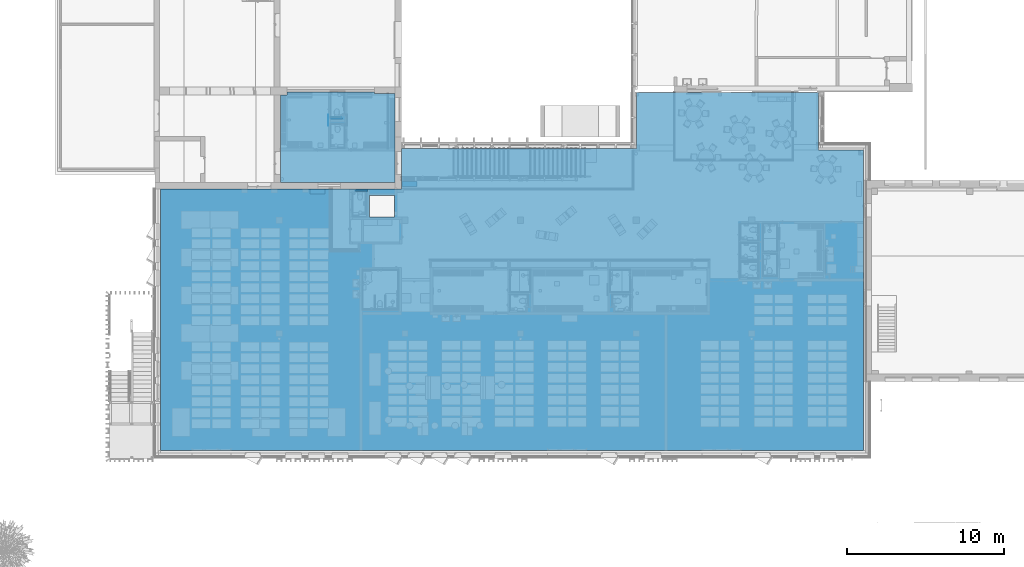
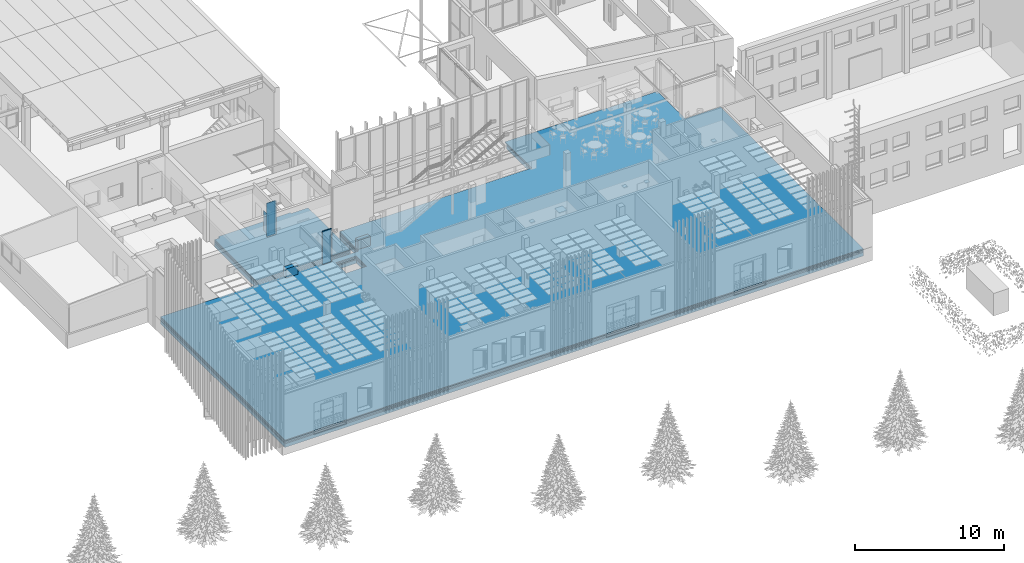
# One storey, part 187 of 301: 14 building element parts, 3 discrete accessories, 4 elements without a shape of their own.
"""IFC2X3 building model written with IfcOpenShell, lengths in millimetres."""

from ifc_helpers import new_model, entity, si_unit, converted_unit, derived_unit, money_unit, direction, frame, origin_with_axes, place, context, subcontext, project, spatial, faceted_brep, material, type_object, element, aggregate, save


model = new_model("IFC2X3")

# Units and contexts
model_context = context("Model", 3, precision=0.01, world=origin_with_axes(), true_north=direction((0.0, 1.0)))
body_context = subcontext(model_context, "Body", "Model", "MODEL_VIEW")
ifc_project = project(units=[si_unit("LENGTHUNIT", "METRE", prefix="MILLI"), si_unit("AREAUNIT", "SQUARE_METRE"), si_unit("VOLUMEUNIT", "CUBIC_METRE"), converted_unit("PLANEANGLEUNIT", "DEGREE", entity("IfcPlaneAngleMeasure", 0.0174532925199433), si_unit("PLANEANGLEUNIT", "RADIAN"), dimensions=[0, 0, 0, 0, 0, 0, 0]), money_unit("EUR"), converted_unit("TIMEUNIT", "Year", entity("IfcTimeMeasure", 31557600.0), si_unit("TIMEUNIT", "SECOND"), dimensions=[0, 0, 1, 0, 0, 0, 0]), si_unit("MASSUNIT", "GRAM", prefix="KILO"), si_unit("THERMODYNAMICTEMPERATUREUNIT", "DEGREE_CELSIUS"), si_unit("LUMINOUSINTENSITYUNIT", "LUMEN"), si_unit("ENERGYUNIT", "JOULE", prefix="MEGA"), derived_unit("THERMALCONDUCTANCEUNIT", [(si_unit("POWERUNIT", "WATT"), 1), (si_unit("LENGTHUNIT", "METRE"), -1), (si_unit("THERMODYNAMICTEMPERATUREUNIT", "KELVIN"), -1)]), derived_unit("SPECIFICHEATCAPACITYUNIT", [(si_unit("ENERGYUNIT", "JOULE"), 1), (si_unit("MASSUNIT", "GRAM", prefix="KILO"), -1), (si_unit("THERMODYNAMICTEMPERATUREUNIT", "KELVIN"), -1)]), derived_unit("MASSDENSITYUNIT", [(si_unit("MASSUNIT", "GRAM", prefix="KILO"), 1), (si_unit("VOLUMEUNIT", "CUBIC_METRE"), -1)])], contexts=[model_context])

# Site, building, storey
site_placement = place(None, frame((0.0, 0.0, 8650.0), z_axis=(0.0, 0.0, 1.0), x_axis=(1.0, 0.0, 0.0)))
site = spatial("IfcSite", under=ifc_project, at=site_placement, Name="43301:001:0844", CompositionType="ELEMENT")
building_placement = place(site_placement, origin_with_axes())
building = spatial("IfcBuilding", under=site, at=building_placement, Name="Kuressaare Ametikooli tuulikute mehaanikute õppekorpus", CompositionType="ELEMENT")
storey_placement = place(building_placement, origin_with_axes())
storey = spatial("IfcBuildingStorey", under=building, at=storey_placement, Name="1.korrus", CompositionType="ELEMENT", Elevation=0.0)

# Discrete accessories
ifc_material_1 = material(Name="GENEERILINE - SISEMINE VOODER")
discrete_accessory_type_1 = type_object("IfcDiscreteAccessoryType", Name="GENEERILINE - SISEMINE VOODER 10")
discrete_accessory_placement = place(storey_placement, frame((98977.70520619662, 30488.53918858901, 500.0), z_axis=(0.0, 0.0, 1.0), x_axis=(2.083127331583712e-06, -0.9999999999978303, 0.0)))
element("IfcDiscreteAccessory", 1, at=discrete_accessory_placement, inside=storey, type_object=discrete_accessory_type_1, material=ifc_material_1, Name="P3", context=body_context, shape_type="Brep", body=[
    faceted_brep([(0.0, 0.0, 1600.0), (699.9999999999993, 0.0, 1600.0), (699.9999999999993, 10.00000000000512, 1600.0), (0.0, 10.00000000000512, 1600.0), (0.0, 0.0, 0.0), (699.9999999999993, 0.0, 0.0), (699.9999999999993, 10.00000000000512, 0.0), (0.0, 10.00000000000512, 0.0)], [[[0, 1, 2, 3]], [[4, 5, 1, 0]], [[2, 1, 5, 6]], [[3, 2, 6, 7]], [[4, 0, 3, 7]], [[7, 6, 5, 4]]]),
])
ifc_material_2 = material(Name="GENEERILINE - KONSTRUKTRIOON")
discrete_accessory_type_2 = type_object("IfcDiscreteAccessoryType", Name="GENEERILINE - KONSTRUKTRIOON 750")
for number, where, z_axis, x_axis, name in (
    (2, (103672.9895724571, 26259.57374875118, 0.0), (0.0, 0.0, 1.0), (1.0, 0.0, 0.0), "PR2"),
    (3, (97824.29829892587, 25783.06892395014, 0.0), (0.0, 0.0, 1.0), (1.0, 0.0, 0.0), "PR2"),
):
    element("IfcDiscreteAccessory", number, at=place(storey_placement, frame(where, z_axis=z_axis, x_axis=x_axis)), inside=storey, type_object=discrete_accessory_type_2, material=ifc_material_2, Name=name, context=body_context, shape_type="Brep", body=[
        faceted_brep([(0.0, 0.0, 750.0), (0.0, 0.0, 0.0), (0.0, -319.9999999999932, 0.0), (0.0, -319.9999999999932, 750.0), (949.9999999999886, 0.0, 750.0), (949.9999999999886, 0.0, 0.0), (949.9999999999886, -319.9999999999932, 0.0), (949.9999999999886, -319.9999999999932, 750.0)], [[[0, 1, 2, 3]], [[4, 5, 1, 0]], [[2, 1, 5, 6]], [[3, 2, 6, 7]], [[4, 0, 3, 7]], [[7, 6, 5, 4]]]),
    ])

# Slab, building element parts
slab_type = type_object("IfcSlabType", Name="P-1 600", PredefinedType="NOTDEFINED")
slab_1_placement = place(storey_placement, frame((95947.90111654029, 26183.06892395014, 0.0), z_axis=(0.0, 0.0, 1.0), x_axis=(1.0, 0.0, 0.0)))
slab_1 = element("IfcSlab", 4, at=slab_1_placement, inside=storey, type_object=slab_type, PredefinedType="NOTDEFINED")
ifc_material_3 = material(Name="Betoon - C30/37")
building_element_part_1_placement = place(slab_1_placement, origin_with_axes())
building_element_part_1 = element("IfcBuildingElementPart", 5, at=building_element_part_1_placement, material=ifc_material_3, Name="Betoon - C30/37", context=body_context, shape_type="Brep", body=[
    faceted_brep([(7279.61109049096, 0.0, -99.99999999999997), (7279.61109049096, 0.0, 0.0), (0.0, 0.0, 0.0), (0.0, 0.0, -99.99999999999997), (7279.61109049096, 5660.94057480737, -99.99999999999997), (7279.61109049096, 5660.94057480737, 0.0), (5971.860583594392, 5660.940572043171, 0.0), (5971.860583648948, 5770.940570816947, 0.0), (398.6829081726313, 5770.940573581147, 0.0), (398.6829081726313, 5571.776691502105, 0.0), (0.0, 5571.776691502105, 0.0), (0.0, 5571.776691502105, -99.99999999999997), (398.6829081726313, 5571.776691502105, -99.99999999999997), (398.6829081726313, 5770.940573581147, -99.99999999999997), (5971.860583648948, 5770.940570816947, -99.99999999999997), (5971.860583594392, 5660.940572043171, -99.99999999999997)], [[[0, 1, 2, 3]], [[4, 5, 1, 0]], [[2, 1, 5, 6, 7, 8, 9, 10]], [[3, 2, 10, 11]], [[3, 11, 12, 13, 14, 15, 4, 0]], [[15, 6, 5, 4]], [[14, 7, 6, 15]], [[13, 8, 7, 14]], [[12, 9, 8, 13]], [[11, 10, 9, 12]]]),
])
ifc_material_4 = material(Name="Soojustus - Vahtpolüstüreen")
building_element_part_2_placement = place(slab_1_placement, origin_with_axes())
building_element_part_2 = element("IfcBuildingElementPart", 6, at=building_element_part_2_placement, material=ifc_material_4, Name="Soojustus - Vahtpolüstüreen", context=body_context, shape_type="Brep", body=[
    faceted_brep([(7279.61109049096, 0.0, -200.0), (7279.61109049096, 0.0, -100.0), (0.0, 0.0, -100.0), (0.0, 0.0, -200.0), (7279.61109049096, 5660.94057480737, -200.0), (7279.61109049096, 5660.94057480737, -100.0), (5971.860583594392, 5660.940572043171, -100.0), (5971.860583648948, 5770.940570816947, -100.0), (398.6829081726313, 5770.940573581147, -100.0), (398.6829081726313, 5571.776691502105, -100.0), (0.0, 5571.776691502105, -100.0), (0.0, 5571.776691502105, -200.0), (398.6829081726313, 5571.776691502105, -200.0), (398.6829081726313, 5770.940573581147, -200.0), (5971.860583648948, 5770.940570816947, -200.0), (5971.860583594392, 5660.940572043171, -200.0)], [[[0, 1, 2, 3]], [[4, 5, 1, 0]], [[2, 1, 5, 6, 7, 8, 9, 10]], [[3, 2, 10, 11]], [[3, 11, 12, 13, 14, 15, 4, 0]], [[15, 6, 5, 4]], [[14, 7, 6, 15]], [[13, 8, 7, 14]], [[12, 9, 8, 13]], [[11, 10, 9, 12]]]),
])
building_element_part_3_placement = place(slab_1_placement, origin_with_axes())
building_element_part_3 = element("IfcBuildingElementPart", 7, at=building_element_part_3_placement, material=ifc_material_4, Name="Soojustus - Vahtpolüstüreen", context=body_context, shape_type="Brep", body=[
    faceted_brep([(7279.61109049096, 0.0, -300.0000000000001), (7279.61109049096, 0.0, -200.0), (0.0, 0.0, -200.0), (0.0, 0.0, -300.0000000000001), (7279.61109049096, 5660.94057480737, -300.0000000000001), (7279.61109049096, 5660.94057480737, -200.0), (5971.860583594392, 5660.940572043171, -200.0), (5971.860583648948, 5770.940570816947, -200.0), (398.6829081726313, 5770.940573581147, -200.0), (398.6829081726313, 5571.776691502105, -200.0), (0.0, 5571.776691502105, -200.0), (0.0, 5571.776691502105, -300.0000000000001), (398.6829081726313, 5571.776691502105, -300.0000000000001), (398.6829081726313, 5770.940573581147, -300.0000000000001), (5971.860583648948, 5770.940570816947, -300.0000000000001), (5971.860583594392, 5660.940572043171, -300.0000000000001)], [[[0, 1, 2, 3]], [[4, 5, 1, 0]], [[2, 1, 5, 6, 7, 8, 9, 10]], [[3, 2, 10, 11]], [[3, 11, 12, 13, 14, 15, 4, 0]], [[15, 6, 5, 4]], [[14, 7, 6, 15]], [[13, 8, 7, 14]], [[12, 9, 8, 13]], [[11, 10, 9, 12]]]),
])
ifc_material_5 = material(Name="Kruus")
building_element_part_4_placement = place(slab_1_placement, origin_with_axes())
building_element_part_4 = element("IfcBuildingElementPart", 8, at=building_element_part_4_placement, material=ifc_material_5, Name="Kruus", context=body_context, shape_type="Brep", body=[
    faceted_brep([(0.0, 0.0, -600.0000000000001), (7279.61109049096, 0.0, -600.0000000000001), (7279.61109049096, 0.0, -300.0000000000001), (0.0, 0.0, -300.0000000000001), (0.0, 5571.776691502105, -600.0000000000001), (398.6829081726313, 5571.776691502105, -600.0000000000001), (398.6829081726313, 5770.940573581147, -600.0000000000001), (5971.860583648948, 5770.940570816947, -600.0000000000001), (5971.860583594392, 5660.940572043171, -600.0000000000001), (7279.61109049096, 5660.94057480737, -600.0000000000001), (7279.61109049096, 5660.94057480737, -300.0000000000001), (5971.860583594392, 5660.940572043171, -300.0000000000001), (5971.860583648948, 5770.940570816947, -300.0000000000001), (398.6829081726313, 5770.940573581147, -300.0000000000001), (398.6829081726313, 5571.776691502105, -300.0000000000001), (0.0, 5571.776691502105, -300.0000000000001)], [[[0, 1, 2, 3]], [[0, 4, 5, 6, 7, 8, 9, 1]], [[1, 9, 10, 2]], [[3, 2, 10, 11, 12, 13, 14, 15]], [[4, 0, 3, 15]], [[5, 4, 15, 14]], [[6, 5, 14, 13]], [[7, 6, 13, 12]], [[8, 7, 12, 11]], [[9, 8, 11, 10]]]),
])
aggregate(slab_1, [building_element_part_1, building_element_part_2, building_element_part_3, building_element_part_4])

slab_2_placement = place(storey_placement, frame((101615.6546914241, 25783.06892395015, 0.0), z_axis=(0.0, 0.0, 1.0), x_axis=(1.0, 0.0, 0.0)))
slab_2 = element("IfcSlab", 9, at=slab_2_placement, inside=storey, type_object=slab_type, PredefinedType="NOTDEFINED")
building_element_part_5_placement = place(slab_2_placement, origin_with_axes())
building_element_part_5 = element("IfcBuildingElementPart", 10, at=building_element_part_5_placement, material=ifc_material_3, Name="Betoon - C30/37", context=body_context, shape_type="Brep", body=[
    faceted_brep([(-13297.42804624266, 0.0, -100.0000000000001), (-13297.42804624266, -16659.23043340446, -100.0000000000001), (-13297.42804624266, -16659.23043340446, 0.0), (-13297.42804624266, 0.0, 0.0), (2031.857515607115, 0.0, -100.0000000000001), (2031.857515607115, 2600.999999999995, -100.0000000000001), (16878.894347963, 2600.999999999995, -100.0000000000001), (16878.894347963, 6138.830856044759, -100.0000000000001), (28660.53118406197, 6138.830856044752, -100.0000000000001), (28665.49492643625, 2461.000000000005, -100.0000000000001), (31409.29175022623, 2461.000000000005, -100.0000000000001), (31409.29175022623, -16659.23043340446, -100.0000000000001), (0.0, -428.9992806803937, -100.0000000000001), (0.0, -1808.999280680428, -100.0000000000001), (1590.00000000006, -1808.999280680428, -100.0000000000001), (1590.00000000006, -428.9992806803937, -100.0000000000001), (31409.29175022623, -16659.23043340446, 0.0), (2031.857515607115, 0.0, 0.0), (31409.29175022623, 2461.000000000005, 0.0), (28665.49492643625, 2461.000000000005, 0.0), (28660.53118406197, 6138.830856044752, 0.0), (16878.894347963, 6138.830856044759, 0.0), (16878.894347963, 2600.999999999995, 0.0), (2031.857515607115, 2600.999999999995, 0.0), (1590.00000000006, -1808.999280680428, 0.0), (0.0, -1808.999280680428, 0.0), (0.0, -428.9992806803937, 0.0), (1590.00000000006, -428.9992806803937, 0.0)], [[[0, 1, 2, 3]], [[0, 4, 5, 6, 7, 8, 9, 10, 11, 1], [12, 13, 14, 15]], [[1, 11, 16, 2]], [[17, 3, 2, 16, 18, 19, 20, 21, 22, 23], [24, 25, 26, 27]], [[4, 0, 3, 17]], [[5, 4, 17, 23]], [[6, 5, 23, 22]], [[7, 6, 22, 21]], [[8, 7, 21, 20]], [[9, 8, 20, 19]], [[10, 9, 19, 18]], [[11, 10, 18, 16]], [[13, 12, 26, 25]], [[14, 13, 25, 24]], [[15, 14, 24, 27]], [[12, 15, 27, 26]]]),
])
building_element_part_6_placement = place(slab_2_placement, origin_with_axes())
building_element_part_6 = element("IfcBuildingElementPart", 11, at=building_element_part_6_placement, material=ifc_material_4, Name="Soojustus - Vahtpolüstüreen", context=body_context, shape_type="Brep", body=[
    faceted_brep([(16682.30071968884, 2576.549620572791, -199.9999999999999), (16682.30071968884, 2576.549620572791, -100.0000119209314), (16978.89412782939, 2576.549620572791, -99.99999999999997), (16978.89412782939, 2576.549620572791, -199.9999999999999), (16682.30071731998, 2576.36333041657, -100.0000119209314), (16682.30071731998, 2576.36333041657, -200.0), (12271.43982669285, 2576.419418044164, -100.0000119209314), (12271.43982834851, 2576.549620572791, -100.0000119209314), (5526.439828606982, 2576.549620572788, -100.0000119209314), (5526.439828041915, 2576.505183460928, -100.0000119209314), (2031.855828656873, 2576.549620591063, -100.0000119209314), (2031.857515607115, 0.0, -100.0), (-13297.42804624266, 0.0, -100.0), (-13297.42804624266, -16659.23043340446, -100.0), (31409.29175022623, -16659.23043340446, -100.0), (31409.2862845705, 610.0796663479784, -99.99999999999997), (31409.29175022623, 1304.786452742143, -100.0), (31409.29175022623, 2461.000000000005, -100.0), (28665.49492640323, 2461.00375705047, -100.0), (28540.76768211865, 2461.00266097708, -99.99999999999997), (28540.80000199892, 6138.830856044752, -100.0), (16978.92543231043, 6138.830856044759, -100.0), (0.0, -428.9992806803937, -100.0), (1590.00000000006, -428.9992806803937, -100.0), (1590.00000000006, -1808.999280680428, -100.0), (0.0, -1808.999280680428, -100.0), (16978.92543231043, 6138.830856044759, -200.0), (28540.80000199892, 6138.830856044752, -200.0), (28540.7672504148, 2460.720270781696, -200.0), (31409.29175022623, 2460.720270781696, -199.9999999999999), (31409.29175022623, 1304.786452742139, -200.0), (31409.2862845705, 610.0796663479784, -199.9999999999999), (31409.29175022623, -16659.23043340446, -200.0), (-13297.42804624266, -16659.23043340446, -200.0), (-13297.42804624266, 0.0, -200.0), (2031.857515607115, 0.0, -200.0), (2031.855828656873, 2576.549620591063, -199.9999999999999), (5526.439828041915, 2576.505183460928, -199.9999999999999), (5526.439828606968, 2576.549620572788, -200.0), (12271.43982834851, 2576.549620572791, -199.9999999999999), (12271.43982669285, 2576.419418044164, -199.9999999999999), (1590.00000000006, -1808.999280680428, -200.0), (1590.00000000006, -428.9992806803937, -200.0), (0.0, -428.9992806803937, -200.0), (0.0, -1808.999280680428, -200.0), (31409.29175022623, 2461.000000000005, -110.0002746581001), (31409.29175022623, 2460.720270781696, -110.0002746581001), (28665.49492136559, 2461.00375704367, -110.0002746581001), (28540.7672504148, 2461.00266097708, -110.0002746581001), (28540.7672504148, 2460.720270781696, -110.0002746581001)], [[[0, 1, 2, 3]], [[4, 1, 0, 5]], [[4, 6, 7, 8, 9, 10, 11, 12, 13, 14, 15, 16, 17, 18, 19, 20, 21, 2, 1], [22, 23, 24, 25]], [[26, 3, 2, 21]], [[5, 0, 3, 26, 27, 28, 29, 30, 31, 32, 33, 34, 35, 36, 37, 38, 39, 40], [41, 42, 43, 44]], [[4, 5, 40, 6]], [[40, 39, 7, 6]], [[8, 7, 39, 38]], [[38, 37, 9, 8]], [[37, 36, 10, 9]], [[35, 11, 10, 36]], [[12, 11, 35, 34]], [[13, 12, 34, 33]], [[14, 13, 33, 32]], [[32, 31, 15, 14]], [[31, 30, 16, 15]], [[45, 17, 16, 30, 29, 46]], [[45, 47, 18, 17]], [[48, 19, 18, 47]], [[27, 20, 19, 48, 49, 28]], [[26, 21, 20, 27]], [[23, 22, 43, 42]], [[24, 23, 42, 41]], [[25, 24, 41, 44]], [[22, 25, 44, 43]], [[49, 46, 29, 28]], [[48, 47, 45, 46, 49]]]),
])
building_element_part_7_placement = place(slab_2_placement, origin_with_axes())
building_element_part_7 = element("IfcBuildingElementPart", 12, at=building_element_part_7_placement, material=ifc_material_4, Name="Soojustus - Vahtpolüstüreen", context=body_context, shape_type="Brep", body=[
    faceted_brep([(16682.30071968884, 2576.549620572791, -300.0000000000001), (16682.30071968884, 2576.549620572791, -199.9999999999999), (16978.89412782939, 2576.549620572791, -199.9999999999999), (16978.89412782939, 2576.549620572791, -300.0000000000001), (16682.30071731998, 2576.36333041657, -200.0), (16682.30071731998, 2576.36333041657, -300.0000000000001), (12271.43982669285, 2576.419418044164, -199.9999999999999), (12271.43982834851, 2576.549620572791, -199.9999999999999), (5526.439828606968, 2576.549620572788, -199.9999999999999), (5526.439828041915, 2576.505183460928, -199.9999999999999), (2031.855828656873, 2576.549620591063, -199.9999999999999), (2031.857515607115, 0.0, -200.0), (-13297.42804624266, 0.0, -200.0), (-13297.42804624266, -16659.23043340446, -200.0), (31409.29175022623, -16659.23043340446, -200.0), (31409.2862845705, 610.0796663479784, -199.9999999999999), (31409.29175022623, 1304.786452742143, -200.0), (31409.29175022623, 2460.720270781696, -200.0), (28540.7672504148, 2460.720270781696, -200.0), (28540.80000199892, 6138.830856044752, -200.0), (16978.92543231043, 6138.830856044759, -200.0), (0.0, -428.9992806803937, -200.0), (1590.00000000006, -428.9992806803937, -200.0), (1590.00000000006, -1808.999280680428, -200.0), (0.0, -1808.999280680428, -200.0), (16978.92543231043, 6138.830856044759, -300.0000000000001), (28540.80000199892, 6138.830856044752, -300.0000000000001), (28540.7672504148, 2460.720270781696, -300.0000000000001), (31409.29175022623, 2460.720270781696, -300.0000000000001), (31409.29175022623, 1304.786452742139, -300.0000000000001), (31409.2862845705, 610.0796663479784, -300.0000000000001), (31409.29175022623, -16659.23043340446, -300.0000000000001), (-13297.42804624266, -16659.23043340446, -300.0000000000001), (-13297.42804624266, 0.0, -300.0000000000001), (2031.857515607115, 0.0, -300.0000000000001), (2031.855828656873, 2576.549620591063, -300.0000000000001), (5526.439828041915, 2576.505183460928, -300.0000000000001), (5526.439828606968, 2576.549620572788, -300.0000000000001), (12271.43982834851, 2576.549620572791, -300.0000000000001), (12271.43982669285, 2576.419418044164, -300.0000000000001), (1590.00000000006, -1808.999280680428, -300.0000000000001), (1590.00000000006, -428.9992806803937, -300.0000000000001), (0.0, -428.9992806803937, -300.0000000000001), (0.0, -1808.999280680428, -300.0000000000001)], [[[0, 1, 2, 3]], [[4, 1, 0, 5]], [[4, 6, 7, 8, 9, 10, 11, 12, 13, 14, 15, 16, 17, 18, 19, 20, 2, 1], [21, 22, 23, 24]], [[25, 3, 2, 20]], [[5, 0, 3, 25, 26, 27, 28, 29, 30, 31, 32, 33, 34, 35, 36, 37, 38, 39], [40, 41, 42, 43]], [[4, 5, 39, 6]], [[39, 38, 7, 6]], [[8, 7, 38, 37]], [[37, 36, 9, 8]], [[36, 35, 10, 9]], [[34, 11, 10, 35]], [[12, 11, 34, 33]], [[13, 12, 33, 32]], [[14, 13, 32, 31]], [[31, 30, 15, 14]], [[30, 29, 16, 15]], [[28, 17, 16, 29]], [[27, 18, 17, 28]], [[27, 26, 19, 18]], [[25, 20, 19, 26]], [[22, 21, 42, 41]], [[23, 22, 41, 40]], [[24, 23, 40, 43]], [[21, 24, 43, 42]]]),
])
building_element_part_8_placement = place(slab_2_placement, origin_with_axes())
building_element_part_8 = element("IfcBuildingElementPart", 13, at=building_element_part_8_placement, material=ifc_material_5, Name="Kruus", context=body_context, shape_type="Brep", body=[
    faceted_brep([(16682.30071968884, 2576.549620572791, -600.0000000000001), (16682.30071968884, 2576.549620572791, -300.0000000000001), (16978.89412782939, 2576.549620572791, -300.0000000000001), (16978.89412782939, 2576.549620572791, -600.0000000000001), (16682.30071731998, 2576.36333041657, -300.0000000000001), (16682.30071731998, 2576.363330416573, -600.0000000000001), (12271.43982669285, 2576.419418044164, -300.0000000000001), (12271.43982834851, 2576.549620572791, -300.0000000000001), (5526.439828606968, 2576.549620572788, -300.0000000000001), (5526.439828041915, 2576.505183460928, -300.0000000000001), (2031.855828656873, 2576.549620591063, -300.0000000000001), (2031.857515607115, 0.0, -300.0000000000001), (-13297.42804624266, 0.0, -300.0000000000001), (-13297.42804624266, -16659.23043340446, -300.0000000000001), (31409.29175022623, -16659.23043340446, -300.0000000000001), (31409.2862845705, 610.0796663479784, -300.0000000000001), (31409.29175022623, 1304.786452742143, -300.0000000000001), (31409.29175022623, 2460.720270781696, -300.0000000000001), (28540.7672504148, 2460.720270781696, -300.0000000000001), (28540.80000199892, 6138.830856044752, -300.0000000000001), (16978.92543231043, 6138.830856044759, -300.0000000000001), (0.0, -428.9992806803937, -300.0000000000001), (1590.00000000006, -428.9992806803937, -300.0000000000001), (1590.00000000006, -1808.999280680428, -300.0000000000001), (0.0, -1808.999280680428, -300.0000000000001), (16978.92543231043, 6138.830856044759, -600.0000000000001), (28540.80000199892, 6138.830856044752, -600.0000000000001), (28540.7672504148, 2460.720270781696, -600.0000000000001), (31409.29175022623, 2460.720270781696, -600.0000000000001), (31409.29175022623, 1304.786452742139, -600.0000000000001), (31409.2862845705, 610.0796663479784, -600.0000000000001), (31409.29175022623, -16659.23043340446, -600.0000000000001), (-13297.42804624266, -16659.23043340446, -600.0000000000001), (-13297.42804624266, 0.0, -600.0000000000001), (2031.857515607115, 0.0, -600.0000000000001), (2031.855828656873, 2576.549620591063, -600.0000000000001), (5526.439828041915, 2576.505183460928, -600.0000000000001), (5526.439828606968, 2576.549620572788, -600.0000000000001), (12271.43982834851, 2576.549620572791, -600.0000000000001), (12271.43982669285, 2576.419418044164, -600.0000000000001), (1590.00000000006, -1808.999280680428, -600.0000000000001), (1590.00000000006, -428.9992806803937, -600.0000000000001), (0.0, -428.9992806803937, -600.0000000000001), (0.0, -1808.999280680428, -600.0000000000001)], [[[0, 1, 2, 3]], [[4, 1, 0, 5]], [[4, 6, 7, 8, 9, 10, 11, 12, 13, 14, 15, 16, 17, 18, 19, 20, 2, 1], [21, 22, 23, 24]], [[25, 3, 2, 20]], [[5, 0, 3, 25, 26, 27, 28, 29, 30, 31, 32, 33, 34, 35, 36, 37, 38, 39], [40, 41, 42, 43]], [[4, 5, 39, 6]], [[39, 38, 7, 6]], [[8, 7, 38, 37]], [[37, 36, 9, 8]], [[36, 35, 10, 9]], [[34, 11, 10, 35]], [[12, 11, 34, 33]], [[32, 13, 12, 33]], [[31, 14, 13, 32]], [[31, 30, 15, 14]], [[30, 29, 16, 15]], [[28, 17, 16, 29]], [[27, 18, 17, 28]], [[27, 26, 19, 18]], [[25, 20, 19, 26]], [[41, 22, 21, 42]], [[40, 23, 22, 41]], [[43, 24, 23, 40]], [[42, 21, 24, 43]]]),
])
aggregate(slab_2, [building_element_part_5, building_element_part_6, building_element_part_7, building_element_part_8])

# Wall, building element parts
wall_type = type_object("IfcWallType", Name="SS-2.4 92", PredefinedType="NOTDEFINED")
wall_1_placement = place(storey_placement, frame((99779.70585881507, 30337.74403529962, 0.0), z_axis=(0.0, 0.0, 1.0), x_axis=(-0.9999993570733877, 0.001133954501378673, 0.0)))
wall_1 = element("IfcWall", 14, at=wall_1_placement, inside=storey, type_object=wall_type, Name="Sisesein")
ifc_material_6 = material(Name="Air Space - Frame")
building_element_part_9_placement = place(wall_1_placement, origin_with_axes())
building_element_part_9 = element("IfcBuildingElementPart", 15, at=building_element_part_9_placement, material=ifc_material_6, Name="Air Space - Frame", context=body_context, shape_type="Brep", body=[
    faceted_brep([(0.0, 91.99999999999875, 2700.0), (-92.10434143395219, 91.99999999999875, 2700.0), (-92.02953019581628, 25.9999999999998, 2700.0), (0.0, 25.9999999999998, 2700.0), (-92.104338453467, 91.99999999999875, 0.0), (0.0, 91.99999999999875, 2720.000000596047), (651.8952897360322, 91.99999999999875, 2720.000000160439), (651.8952897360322, 91.99999999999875, 0.0), (-92.02952721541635, 25.99999999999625, 0.0), (651.9701307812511, 26.00000000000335, 0.0), (651.9701307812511, 26.00000000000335, 2720.000000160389), (0.0, 25.9999999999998, 2720.000000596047)], [[[0, 1, 2, 3]], [[4, 1, 0, 5, 6, 7]], [[8, 2, 1, 4]], [[3, 2, 8, 9, 10, 11]], [[0, 3, 11, 5]], [[6, 5, 11, 10]], [[10, 9, 7, 6]], [[9, 8, 4, 7]]]),
])
ifc_material_7 = material(Name="Plaster - Gypsum")
building_element_part_10_placement = place(wall_1_placement, origin_with_axes())
building_element_part_10 = element("IfcBuildingElementPart", 16, at=building_element_part_10_placement, material=ifc_material_7, Name="Plaster - Gypsum", context=body_context, shape_type="Brep", body=[
    faceted_brep([(651.9996136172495, 0.0, 2600.0), (0.0, 0.0, 2600.0), (0.0, 0.0, 2650.0), (651.9996136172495, 0.0, 2650.0), (651.9996136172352, 0.0, 2720.000000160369), (0.0, 0.0, 2720.000000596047), (0.0, 0.0, 2700.0), (-13.0000083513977, 0.0, 2700.0), (-13.0000083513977, 0.0, 0.0), (651.9996136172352, 0.0, 0.0), (651.9984560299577, 1.020840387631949, 2600.0), (651.9984560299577, 1.020840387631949, 2650.0), (651.9848721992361, 13.00000000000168, 0.0), (651.9848721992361, 13.00000000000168, 2720.000000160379), (0.0, 13.00000000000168, 2720.000000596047), (0.0, 13.00000000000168, 2700.0), (-13.01474389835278, 12.99999999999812, 2700.0), (-13.01474389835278, 12.99999999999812, 0.0)], [[[0, 1, 2, 3, 4, 5, 6, 7, 8, 9]], [[1, 0, 10]], [[10, 11, 2, 1]], [[3, 2, 11]], [[10, 0, 9, 12, 13, 4, 3, 11]], [[4, 13, 14, 5]], [[14, 15, 6, 5]], [[15, 16, 7, 6]], [[8, 7, 16, 17]], [[9, 8, 17, 12]], [[17, 16, 15, 14, 13, 12]]]),
])
ifc_material_8 = material(Name="Plywood")
building_element_part_11_placement = place(wall_1_placement, origin_with_axes())
building_element_part_11 = element("IfcBuildingElementPart", 17, at=building_element_part_11_placement, material=ifc_material_8, Name="Plywood", context=body_context, shape_type="Brep", body=[
    faceted_brep([(0.0, 25.9999999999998, 2700.0), (-26.02948779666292, 25.9999999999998, 2700.0), (-26.01475224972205, 12.99999999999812, 2700.0), (0.0, 13.00000000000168, 2700.0), (-26.02948779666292, 25.99999999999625, 0.0), (-26.02948779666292, 25.9999999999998, 2600.0), (0.0, 25.9999999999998, 2720.000000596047), (651.9701307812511, 26.00000000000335, 2720.000000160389), (651.9701307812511, 26.00000000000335, 0.0), (-26.01475224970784, 12.99999999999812, 0.0), (651.9848721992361, 13.00000000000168, 0.0), (651.9848721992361, 13.00000000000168, 2720.000000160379), (0.0, 13.00000000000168, 2720.000000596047)], [[[0, 1, 2, 3]], [[4, 5, 1, 0, 6, 7, 8]], [[9, 2, 1, 5, 4]], [[3, 2, 9, 10, 11, 12]], [[6, 0, 3, 12]], [[11, 7, 6, 12]], [[7, 11, 10, 8]], [[10, 9, 4, 8]]]),
])
aggregate(wall_1, [building_element_part_9, building_element_part_10, building_element_part_11])

wall_2_placement = place(storey_placement, frame((101383.6546914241, 25608.13940888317, 0.0), z_axis=(0.0, 0.0, 1.0), x_axis=(-1.0, 0.0, 0.0)))
wall_2 = element("IfcWall", 18, at=wall_2_placement, inside=storey, type_object=wall_type, Name="Sisesein")
building_element_part_12_placement = place(wall_2_placement, origin_with_axes())
building_element_part_12 = element("IfcBuildingElementPart", 19, at=building_element_part_12_placement, material=ifc_material_8, Name="Plywood", context=body_context, shape_type="Brep", body=[
    faceted_brep([(-25.99999999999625, -12.99999999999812, 2700.0), (-25.99999999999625, -13.00000000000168, 0.0), (-25.99999999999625, -25.9999999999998, 0.0), (-25.99999999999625, -25.9999999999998, 2600.0), (-25.99999999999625, -25.9999999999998, 2700.0), (647.3382097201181, -12.99999999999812, 2700.0), (647.3382097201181, -13.00000000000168, 0.0), (647.3382097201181, -25.9999999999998, 0.0), (647.3382097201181, -25.9999999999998, 2700.0)], [[[0, 1, 2, 3, 4]], [[1, 0, 5, 6]], [[2, 1, 6, 7]], [[3, 2, 7, 8, 4]], [[0, 4, 8, 5]], [[6, 5, 8, 7]]]),
])
building_element_part_13_placement = place(wall_2_placement, origin_with_axes())
building_element_part_13 = element("IfcBuildingElementPart", 20, at=building_element_part_13_placement, material=ifc_material_7, Name="Plaster - Gypsum", context=body_context, shape_type="Brep", body=[
    faceted_brep([(-13.00000000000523, 0.0, 2700.0), (-13.00000000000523, 0.0, 0.0), (-13.00000000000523, -13.00000000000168, 0.0), (-13.00000000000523, -12.99999999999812, 2600.0), (-13.00000000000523, -12.99999999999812, 2700.0), (647.3382097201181, 0.0, 2700.0), (647.3382097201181, 0.0, 0.0), (647.3382097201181, -13.00000000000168, 0.0), (647.3382097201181, -12.99999999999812, 2700.0)], [[[0, 1, 2, 3, 4]], [[1, 0, 5, 6]], [[2, 1, 6, 7]], [[3, 2, 7, 8, 4]], [[0, 4, 8, 5]], [[6, 5, 8, 7]]]),
])
building_element_part_14_placement = place(wall_2_placement, origin_with_axes())
building_element_part_14 = element("IfcBuildingElementPart", 21, at=building_element_part_14_placement, material=ifc_material_6, Name="Air Space - Frame", context=body_context, shape_type="Brep", body=[
    faceted_brep([(-91.99999999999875, -25.9999999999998, 2700.0), (-91.99999999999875, -25.9999999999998, 0.0), (-91.99999999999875, -91.99999999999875, 0.0), (-91.99999999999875, -91.99999999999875, 2700.0), (647.3382097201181, -25.9999999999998, 2700.0), (647.3382097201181, -25.9999999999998, 0.0), (647.3382097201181, -91.99999999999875, 0.0), (647.3382097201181, -91.99999999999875, 2700.0)], [[[0, 1, 2, 3]], [[1, 0, 4, 5]], [[2, 1, 5, 6]], [[2, 6, 7, 3]], [[0, 3, 7, 4]], [[4, 7, 6, 5]]]),
])
aggregate(wall_2, [building_element_part_12, building_element_part_13, building_element_part_14])

save(model, "model.ifc")
